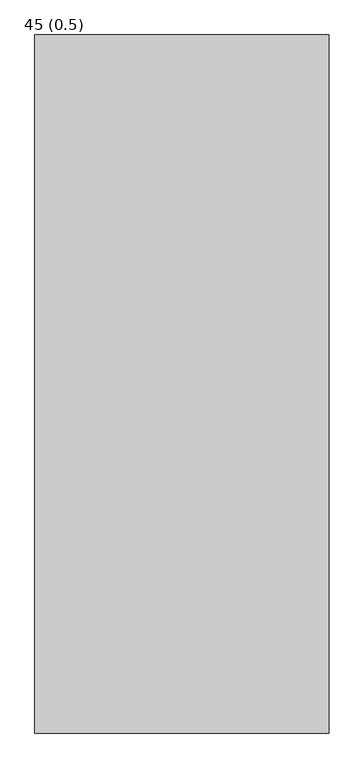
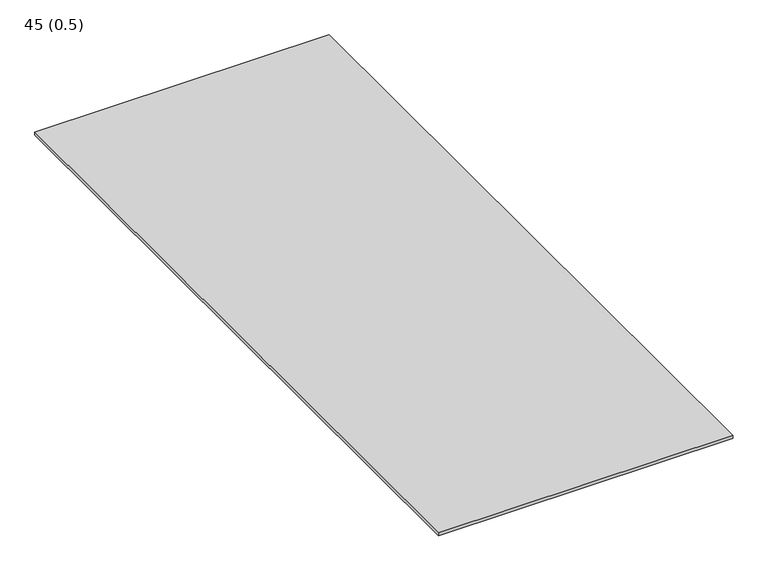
"""IFC4 building model written with IfcOpenShell, lengths in millimetres: proxy geometry, Wall-Panel-Kirei-45_Panels : 45 (0.5)."""

from ifc_helpers import new_model, si_unit, origin, origin_with_axes, place, context, project, spatial, polyline, outline, extrude, source, transform, mapped, element, save


def proxy_45_0_5_ca7729e5(model_context):
    return source(origin(), model_context, "Body", "SweptSolid", [
        extrude(outline(polyline([(541.0398438, 1365.25), (541.0398438, -1365.25), (-609.6, -1365.25), (-609.6, 1365.25), (541.0398438, 1365.25)])), origin_with_axes(), (0.0, 0.0, 1.0), 12.0054687),
    ])


if __name__ == "__main__":
    model = new_model("IFC4")
    model_context = context("Model", 3, world=origin())
    ifc_project = project(units=[si_unit("LENGTHUNIT", "METRE", prefix="MILLI")], contexts=[model_context])
    site = spatial("IfcSite", under=ifc_project)
    building = spatial("IfcBuilding", under=site)
    placement = place(None, origin())
    proxy_45_0_5_shape = proxy_45_0_5_ca7729e5(model_context)
    element("IfcBuildingElementProxy", 1, Name="Wall-Panel-Kirei-45_Panels : 45 (0.5)", ObjectType="Wall-Panel-Kirei-45_Panels : 45 (0.5)", at=placement, inside=building, context=model_context, shape_type="MappedRepresentation", body=[
        mapped(proxy_45_0_5_shape, transform((0.0, 0.0, 0.0), x_axis=(1.0, 0.0, 0.0), y_axis=(0.0, 1.0, 0.0), z_axis=(0.0, 0.0, 1.0))),
    ])
    save(model, "model.ifc")
